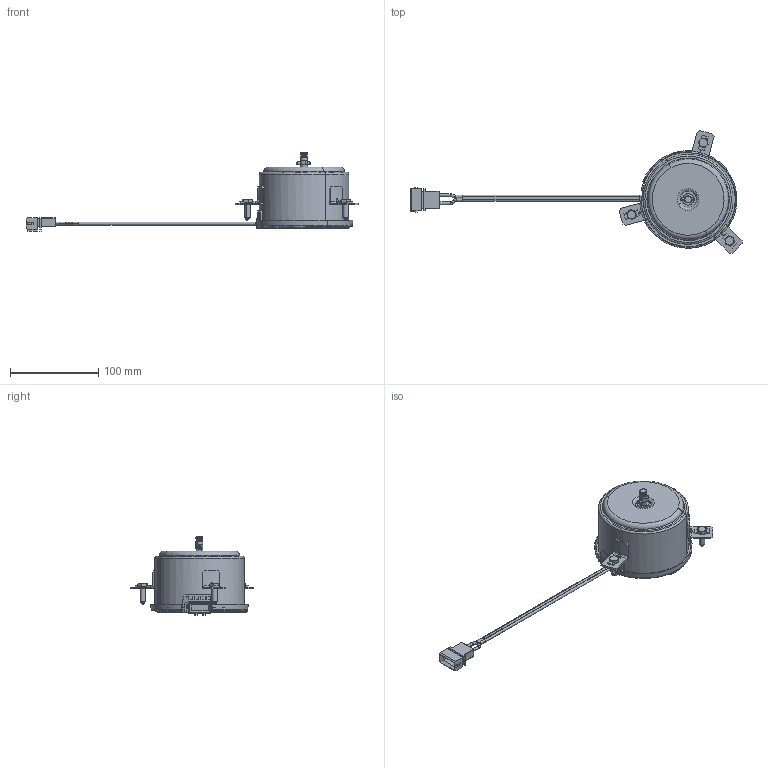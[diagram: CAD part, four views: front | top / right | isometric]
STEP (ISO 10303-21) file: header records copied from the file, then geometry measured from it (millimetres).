
FILE_DESCRIPTION(('CATIA V5 STEP Exchange'),'2;1');
FILE_NAME('S:\02_MOTORS\01_PL920\01_GPB\GPB_Follow_up_RBDI_Buehl_TIP\Buep_Issues\3137227744_3D_dummy\3137227744_assy.stp','2012-11-29T15:36:49+00:00',('none'),('none'),'CATIA Version 5 Release 19 SP 3 (IN-10)','CATIA V5 STEP AP214','none');
FILE_SCHEMA(('AUTOMOTIVE_DESIGN { 1 0 10303 214 1 1 1 1 }'));
Length unit declared in the file: millimetre
Products named in the file (9): Product2; GPB-M Final; Product1; Part3; Part7; Part4; Product3; Part5; Part6
Assembly tree (10 placements, depth 3):
  Product2
    GPB-M Final
    Product1  x3
      Part3
      Part7
    Part4
    Product3
      Part5
      Part6
Bounding box: 376.39 x 139.04 x 89 mm (x, y, z)
Volume: 566317.4 mm3; surface area: 80612.6 mm2
Topology: 12 solids, 14 shells, 1045 faces, 2809 edges, 1762 vertices
Faces by surface type: plane 451, cylinder 279, torus 163, bspline 80, cone 42, sphere 26, extrusion 4
Entity records: 34723 total; most frequent: CARTESIAN_POINT 11669, ORIENTED_EDGE 4994, DIRECTION 3345, EDGE_CURVE 2497, VERTEX_POINT 1576, AXIS2_PLACEMENT_3D 1507, VECTOR 1213, LINE 1209
